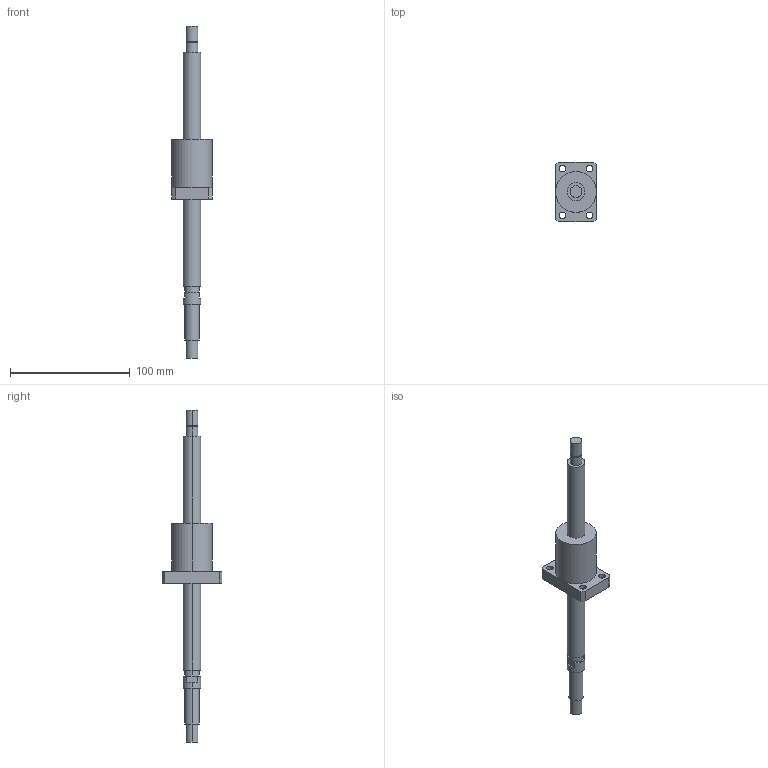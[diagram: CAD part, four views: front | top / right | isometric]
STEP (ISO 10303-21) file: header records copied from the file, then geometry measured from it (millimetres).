
FILE_DESCRIPTION((''),'2;1');
FILE_NAME('R15-10K3-FSC-189-271','2008-03-28T',('mahdi'),(''),'PRO/ENGINEER BY PARAMETRIC TECHNOLOGY CORPORATION, 2005070','PRO/ENGINEER BY PARAMETRIC TECHNOLOGY CORPORATION, 2005070','');
FILE_SCHEMA(('CONFIG_CONTROL_DESIGN'));
Length unit declared in the file: millimetre
Products named in the file (1): R15-10K3-FSC-189-271
Bounding box: 34 x 50 x 277 mm (x, y, z)
Volume: 85352 mm3; surface area: 19961 mm2
Topology: 1 solids, 1 shells, 66 faces, 148 edges, 96 vertices
Faces by surface type: cylinder 40, plane 26
Entity records: 1926 total; most frequent: DIRECTION 364, CARTESIAN_POINT 310, ORIENTED_EDGE 296, AXIS2_PLACEMENT_3D 150, EDGE_CURVE 148, VERTEX_POINT 96, EDGE_LOOP 86, CIRCLE 84
